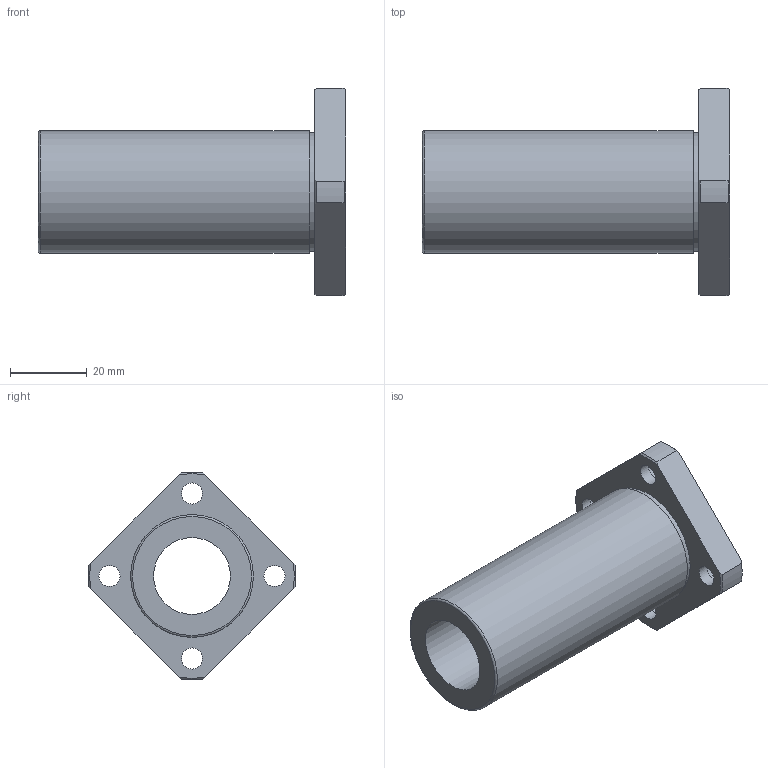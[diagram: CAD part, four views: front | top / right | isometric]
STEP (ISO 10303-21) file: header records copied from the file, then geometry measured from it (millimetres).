
FILE_DESCRIPTION(('STEP AP203'),'1');
FILE_NAME('//192.168.1.1/share/s-4 技術開発/s-4-4_CAD/s-4-4-3_見直し済み/002 修正済み/NFES-VL/NFES-VL_TOP/NFES-20VLUU.step','2022-03-08T00:54:27',(' '),(' '),'Spatial InterOp 3D',' ',' ');
FILE_SCHEMA(('CONFIG_CONTROL_DESIGN'));
Length unit declared in the file: millimetre
Products named in the file (1): 1
Bounding box: 80 x 53.97 x 53.97 mm (x, y, z)
Volume: 44986.8 mm3; surface area: 17020.5 mm2
Topology: 1 solids, 1 shells, 36 faces, 89 edges, 61 vertices
Faces by surface type: cylinder 15, plane 12, cone 8, torus 1
Full cylindrical faces by diameter (mm): 5.5 x4, 9 x4, 20 x1, 31 x1, 32 x1
Entity records: 1058 total; most frequent: CARTESIAN_POINT 211, DIRECTION 168, ORIENTED_EDGE 142, AXIS2_PLACEMENT_3D 76, EDGE_CURVE 71, EDGE_LOOP 64, VERTEX_POINT 55, FACE_OUTER_BOUND 48
